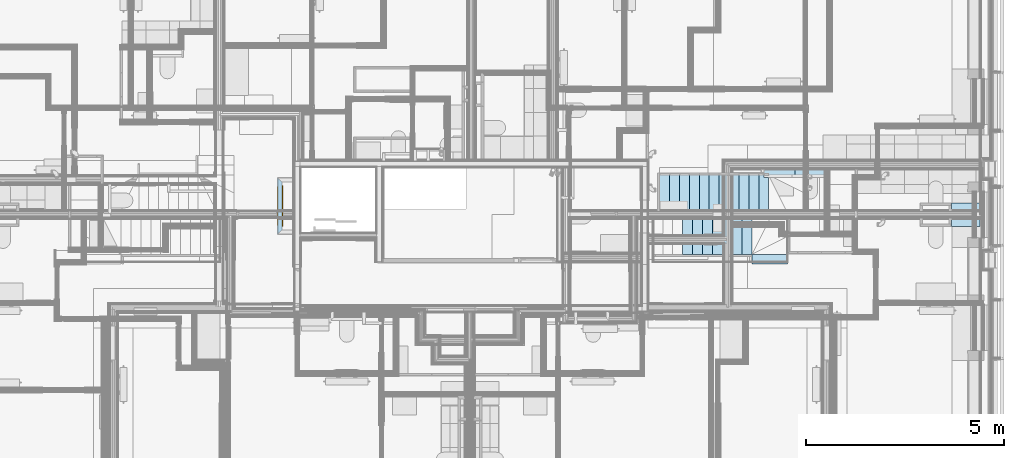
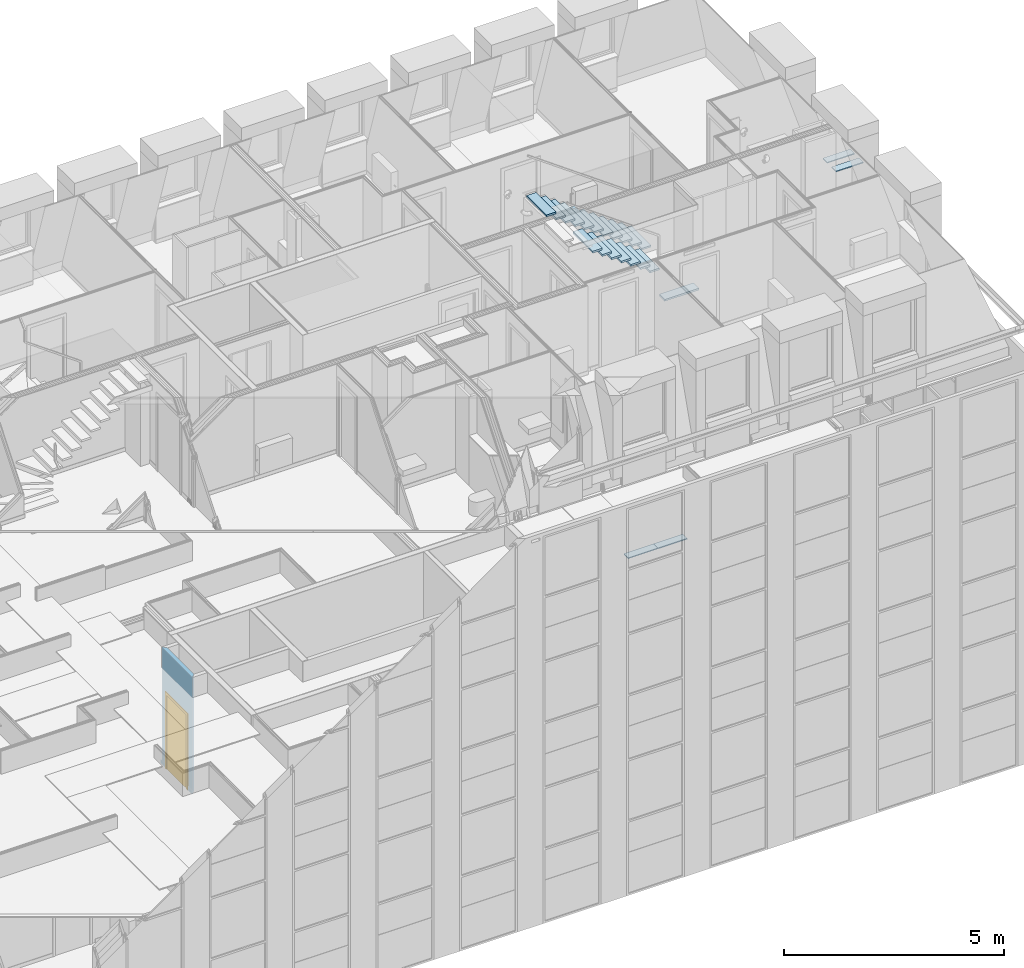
# One storey, part 82 of 169: 23 slabs, 1 door, 1 opening, plus 1 element that does not belong to this part.
"""IFC2X3 building model written with IfcOpenShell, lengths in metres."""

from ifc_helpers import new_model, entity, si_unit, converted_unit, derived_unit, money_unit, direction, frame, frame_2d, origin_with_axes, place, context, subcontext, project, spatial, polyline, rectangle, outline, extrude, clip, bounded_halfspace, faceted_brep, material, layer, layer_set, layer_usage, type_object, element, fill, save


model = new_model("IFC2X3")

# Units and contexts
model_context = context("Model", 3, precision=1e-05, world=origin_with_axes(), true_north=direction((0.0, 1.0)))
body_context = subcontext(model_context, "Body", "Model", "MODEL_VIEW", scale=1.0)
ifc_project = project(units=[si_unit("LENGTHUNIT", "METRE"), si_unit("AREAUNIT", "SQUARE_METRE"), si_unit("VOLUMEUNIT", "CUBIC_METRE"), si_unit("ABSORBEDDOSEUNIT", "GRAY"), si_unit("AMOUNTOFSUBSTANCEUNIT", "MOLE"), si_unit("DOSEEQUIVALENTUNIT", "SIEVERT"), si_unit("ELECTRICCAPACITANCEUNIT", "FARAD"), si_unit("ELECTRICCHARGEUNIT", "COULOMB"), si_unit("ELECTRICCONDUCTANCEUNIT", "SIEMENS"), si_unit("ELECTRICCURRENTUNIT", "AMPERE"), si_unit("ELECTRICRESISTANCEUNIT", "OHM"), si_unit("ELECTRICVOLTAGEUNIT", "VOLT"), si_unit("ENERGYUNIT", "JOULE"), si_unit("FORCEUNIT", "NEWTON"), si_unit("FREQUENCYUNIT", "HERTZ"), si_unit("ILLUMINANCEUNIT", "LUX"), si_unit("INDUCTANCEUNIT", "HENRY"), si_unit("LUMINOUSFLUXUNIT", "LUMEN"), si_unit("LUMINOUSINTENSITYUNIT", "CANDELA"), si_unit("MAGNETICFLUXDENSITYUNIT", "TESLA"), si_unit("MAGNETICFLUXUNIT", "WEBER"), si_unit("MASSUNIT", "GRAM"), converted_unit("PLANEANGLEUNIT", "degree", entity("IfcReal", 0.0174532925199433), si_unit("PLANEANGLEUNIT", "RADIAN"), dimensions=[0, 0, 0, 0, 0, 0, 0]), si_unit("POWERUNIT", "WATT"), si_unit("PRESSUREUNIT", "PASCAL"), si_unit("RADIOACTIVITYUNIT", "BECQUEREL"), si_unit("SOLIDANGLEUNIT", "STERADIAN"), si_unit("THERMODYNAMICTEMPERATUREUNIT", "KELVIN"), si_unit("TIMEUNIT", "SECOND"), derived_unit("ACCELERATIONUNIT", [(si_unit("LENGTHUNIT", "METRE"), 1), (si_unit("TIMEUNIT", "SECOND"), -2)]), derived_unit("ANGULARVELOCITYUNIT", [(converted_unit("PLANEANGLEUNIT", "degree", entity("IfcReal", 0.0174532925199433), si_unit("PLANEANGLEUNIT", "RADIAN"), dimensions=[0, 0, 0, 0, 0, 0, 0]), 1), (si_unit("TIMEUNIT", "SECOND"), -1)]), derived_unit("CURVATUREUNIT", [(converted_unit("PLANEANGLEUNIT", "degree", entity("IfcReal", 0.0174532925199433), si_unit("PLANEANGLEUNIT", "RADIAN"), dimensions=[0, 0, 0, 0, 0, 0, 0]), 1), (si_unit("LENGTHUNIT", "METRE"), -1)]), derived_unit("DYNAMICVISCOSITYUNIT", [(si_unit("PRESSUREUNIT", "PASCAL"), 1), (si_unit("TIMEUNIT", "SECOND"), 1)]), derived_unit("HEATFLUXDENSITYUNIT", [(si_unit("POWERUNIT", "WATT"), 1), (si_unit("LENGTHUNIT", "METRE"), -2)]), derived_unit("HEATINGVALUEUNIT", [(si_unit("ENERGYUNIT", "JOULE"), 1), (si_unit("MASSUNIT", "GRAM"), -1)]), derived_unit("INTEGERCOUNTRATEUNIT", [(si_unit("TIMEUNIT", "SECOND"), -1)]), derived_unit("IONCONCENTRATIONUNIT", [(si_unit("MASSUNIT", "GRAM"), 1), (si_unit("VOLUMEUNIT", "CUBIC_METRE"), -1)]), derived_unit("ISOTHERMALMOISTURECAPACITYUNIT", [(si_unit("VOLUMEUNIT", "CUBIC_METRE"), 1), (si_unit("MASSUNIT", "GRAM"), -1)]), derived_unit("KINEMATICVISCOSITYUNIT", [(si_unit("AREAUNIT", "SQUARE_METRE"), 1), (si_unit("TIMEUNIT", "SECOND"), -1)]), derived_unit("LINEARFORCEUNIT", [(si_unit("FORCEUNIT", "NEWTON"), 1), (si_unit("LENGTHUNIT", "METRE"), -1)]), derived_unit("LINEARMOMENTUNIT", [(si_unit("FORCEUNIT", "NEWTON"), 1), (si_unit("LENGTHUNIT", "METRE"), -1)]), derived_unit("LINEARSTIFFNESSUNIT", [(si_unit("FORCEUNIT", "NEWTON"), 1), (si_unit("LENGTHUNIT", "METRE"), -1)]), derived_unit("LINEARVELOCITYUNIT", [(si_unit("LENGTHUNIT", "METRE"), 1), (si_unit("TIMEUNIT", "SECOND"), -1)]), derived_unit("LUMINOUSINTENSITYDISTRIBUTIONUNIT", [(si_unit("LUMINOUSINTENSITYUNIT", "CANDELA"), 1), (si_unit("LUMINOUSFLUXUNIT", "LUMEN"), -1)]), derived_unit("MASSDENSITYUNIT", [(si_unit("MASSUNIT", "GRAM"), 1), (si_unit("VOLUMEUNIT", "CUBIC_METRE"), -1)]), derived_unit("MASSFLOWRATEUNIT", [(si_unit("MASSUNIT", "GRAM"), 1), (si_unit("TIMEUNIT", "SECOND"), -1)]), derived_unit("MASSPERLENGTHUNIT", [(si_unit("MASSUNIT", "GRAM"), 1), (si_unit("LENGTHUNIT", "METRE"), -1)]), derived_unit("MODULUSOFELASTICITYUNIT", [(si_unit("FORCEUNIT", "NEWTON"), 1), (si_unit("AREAUNIT", "SQUARE_METRE"), -1)]), derived_unit("MODULUSOFLINEARSUBGRADEREACTIONUNIT", [(si_unit("FORCEUNIT", "NEWTON"), 1), (si_unit("LENGTHUNIT", "METRE"), -2)]), derived_unit("MODULUSOFROTATIONALSUBGRADEREACTIONUNIT", [(si_unit("FORCEUNIT", "NEWTON"), 1), (si_unit("LENGTHUNIT", "METRE"), 1)]), derived_unit("MODULUSOFSUBGRADEREACTIONUNIT", [(si_unit("FORCEUNIT", "NEWTON"), 1), (si_unit("VOLUMEUNIT", "CUBIC_METRE"), -1)]), derived_unit("MOISTUREDIFFUSIVITYUNIT", [(si_unit("VOLUMEUNIT", "CUBIC_METRE"), 1), (si_unit("TIMEUNIT", "SECOND"), -1)]), derived_unit("MOLECULARWEIGHTUNIT", [(si_unit("MASSUNIT", "GRAM"), 1), (si_unit("AMOUNTOFSUBSTANCEUNIT", "MOLE"), -1)]), derived_unit("PLANARFORCEUNIT", [(si_unit("FORCEUNIT", "NEWTON"), 1), (si_unit("LENGTHUNIT", "METRE"), -2)]), derived_unit("ROTATIONALFREQUENCYUNIT", [(si_unit("TIMEUNIT", "SECOND"), -1)]), derived_unit("ROTATIONALMASSUNIT", [(si_unit("MASSUNIT", "GRAM"), 1), (si_unit("LENGTHUNIT", "METRE"), 2)]), derived_unit("ROTATIONALSTIFFNESSUNIT", [(si_unit("FORCEUNIT", "NEWTON"), 1), (si_unit("LENGTHUNIT", "METRE"), 1), (converted_unit("PLANEANGLEUNIT", "degree", entity("IfcReal", 0.0174532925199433), si_unit("PLANEANGLEUNIT", "RADIAN"), dimensions=[0, 0, 0, 0, 0, 0, 0]), -1)]), derived_unit("SECTIONAREAINTEGRALUNIT", [(si_unit("LENGTHUNIT", "METRE"), 5)]), derived_unit("SECTIONMODULUSUNIT", [(si_unit("LENGTHUNIT", "METRE"), 3)]), derived_unit("SHEARMODULUSUNIT", [(si_unit("FORCEUNIT", "NEWTON"), 1), (si_unit("AREAUNIT", "SQUARE_METRE"), -1)]), derived_unit("SOUNDPOWERUNIT", [(si_unit("ENERGYUNIT", "JOULE"), 1), (si_unit("TIMEUNIT", "SECOND"), -1)]), derived_unit("SPECIFICHEATCAPACITYUNIT", [(si_unit("FORCEUNIT", "NEWTON"), 1), (si_unit("MASSUNIT", "GRAM"), -1), (si_unit("THERMODYNAMICTEMPERATUREUNIT", "KELVIN"), -1)]), derived_unit("TEMPERATUREGRADIENTUNIT", [(si_unit("THERMODYNAMICTEMPERATUREUNIT", "KELVIN"), 1), (si_unit("LENGTHUNIT", "METRE"), -1)]), derived_unit("THERMALADMITTANCEUNIT", [(si_unit("POWERUNIT", "WATT"), 1), (si_unit("AREAUNIT", "SQUARE_METRE"), -1), (si_unit("THERMODYNAMICTEMPERATUREUNIT", "KELVIN"), -1)]), derived_unit("THERMALCONDUCTANCEUNIT", [(si_unit("POWERUNIT", "WATT"), 1), (si_unit("LENGTHUNIT", "METRE"), -1), (si_unit("THERMODYNAMICTEMPERATUREUNIT", "KELVIN"), -1)]), derived_unit("THERMALEXPANSIONCOEFFICIENTUNIT", [(si_unit("THERMODYNAMICTEMPERATUREUNIT", "KELVIN"), -1)]), derived_unit("THERMALRESISTANCEUNIT", [(si_unit("AREAUNIT", "SQUARE_METRE"), 1), (si_unit("POWERUNIT", "WATT"), -1)]), derived_unit("THERMALTRANSMITTANCEUNIT", [(si_unit("POWERUNIT", "WATT"), 1), (si_unit("AREAUNIT", "SQUARE_METRE"), -1), (si_unit("THERMODYNAMICTEMPERATUREUNIT", "KELVIN"), -1)]), derived_unit("TORQUEUNIT", [(si_unit("FORCEUNIT", "NEWTON"), 1), (si_unit("LENGTHUNIT", "METRE"), 1)]), derived_unit("VAPORPERMEABILITYUNIT", [(si_unit("MASSUNIT", "GRAM"), 1), (si_unit("TIMEUNIT", "SECOND"), -1)]), derived_unit("VOLUMETRICFLOWRATEUNIT", [(si_unit("VOLUMEUNIT", "CUBIC_METRE"), 1), (si_unit("TIMEUNIT", "SECOND"), -1)]), derived_unit("WARPINGCONSTANTUNIT", [(si_unit("LENGTHUNIT", "METRE"), 6)]), derived_unit("WARPINGMOMENTUNIT", [(si_unit("FORCEUNIT", "NEWTON"), 1), (si_unit("LENGTHUNIT", "METRE"), 2)]), money_unit("GBP")], contexts=[model_context])

# Site, building, storey
site_placement = place(None, origin_with_axes())
site = spatial("IfcSite", under=ifc_project, at=site_placement, Name="Site", CompositionType="ELEMENT")
building_placement = place(site_placement, origin_with_axes())
building = spatial("IfcBuilding", under=site, at=building_placement, Name="Building01", CompositionType="ELEMENT")
storey_placement = place(building_placement, frame((0.0, 0.0, 5.15), z_axis=(0.0, 0.0, 1.0), x_axis=(1.0, 0.0, 0.0)))
storey = spatial("IfcBuildingStorey", under=building, at=storey_placement, Name="1F", CompositionType="ELEMENT", Elevation=5.15)

# Slabs
ifc_material_1 = material(Name="A_BSUK_Ceramic_WallTiles")
slab_type = type_object("IfcSlabType", Name="A-FloorsSlabs A_BSUK_Slabs", PredefinedType="FLOOR")
placement = place(storey_placement, frame((0.0, 0.0, -5.15), z_axis=(0.0, 0.0, 1.0), x_axis=(1.0, 0.0, 0.0)))
element("IfcSlab", 1, at=placement, inside=storey, type_object=slab_type, material=ifc_material_1, Name="A-FloorsSlabs A_BSUK_Slabs", ObjectType="CompoundSlabLeaf", context=body_context, shape_type="Brep", body=[
    faceted_brep([(22.476661, 8.595, 6.525), (22.476661, 8.595, 6.55), (22.476661, 8.395001, 6.55), (22.476661, 8.395001, 6.525), (21.699661, 8.594999, 6.525), (21.699661, 8.594999, 6.55), (21.699661, 8.395003, 6.525), (21.699661, 8.395003, 6.55)], [[[0, 1, 2, 3]], [[4, 5, 1, 0]], [[6, 7, 5, 4]], [[3, 2, 7, 6]], [[1, 5, 7, 2]], [[3, 6, 4, 0]]]),
])
element("IfcSlab", 2, at=placement, inside=storey, type_object=slab_type, material=ifc_material_1, Name="A-FloorsSlabs A_BSUK_Slabs", ObjectType="CompoundSlabLeaf", context=body_context, shape_type="Brep", body=[
    faceted_brep([(21.699661, 8.595, 6.525), (21.699661, 8.595, 6.55), (21.699661, 8.395003, 6.55), (21.699661, 8.395003, 6.525), (20.922661, 8.595, 6.525), (20.922661, 8.595, 6.55), (20.922661, 8.394685, 6.525), (20.922661, 8.394685, 6.55)], [[[0, 1, 2, 3]], [[4, 5, 1, 0]], [[6, 7, 5, 4]], [[3, 2, 7, 6]], [[1, 5, 7, 2]], [[3, 6, 4, 0]]]),
])
element("IfcSlab", 3, at=placement, inside=storey, type_object=slab_type, material=ifc_material_1, Name="A-FloorsSlabs A_BSUK_Slabs", ObjectType="CompoundSlabLeaf", context=body_context, shape_type="Brep", body=[
    faceted_brep([(26.380061, 7.749913, 16.355), (26.380061, 7.749913, 16.38), (26.380061, 7.549915, 16.38), (26.380061, 7.549915, 16.355), (25.658821, 7.749913, 16.355), (25.658821, 7.749913, 16.38), (25.658821, 7.549915, 16.355), (25.658821, 7.549915, 16.38)], [[[0, 1, 2, 3]], [[4, 5, 1, 0]], [[6, 7, 5, 4]], [[3, 2, 7, 6]], [[1, 5, 7, 2]], [[3, 6, 4, 0]]]),
])
element("IfcSlab", 4, at=placement, inside=storey, type_object=slab_type, material=ifc_material_1, Name="A-FloorsSlabs A_BSUK_Slabs", ObjectType="CompoundSlabLeaf", context=body_context, shape_type="Brep", body=[
    faceted_brep([(26.380061, 7.349964, 16.355), (26.380061, 7.349964, 16.38), (26.380061, 7.149966, 16.38), (26.380061, 7.149966, 16.355), (25.658821, 7.349964, 16.355), (25.658821, 7.349964, 16.38), (25.658821, 7.149966, 16.355), (25.658821, 7.149966, 16.38)], [[[0, 1, 2, 3]], [[4, 5, 1, 0]], [[6, 7, 5, 4]], [[3, 2, 7, 6]], [[1, 5, 7, 2]], [[3, 6, 4, 0]]]),
])
ifc_material_2 = material(Name="A_BSUK_Slabs")
element("IfcSlab", 5, at=placement, inside=storey, type_object=slab_type, material=ifc_material_2, Name="A-FloorsSlabs A_BSUK_Slabs", ObjectType="CompoundSlabLeaf", context=body_context, shape_type="Brep", body=[
    faceted_brep([(18.86844, 7.349939, 16.91), (18.86844, 7.349939, 16.96), (19.11844, 7.349939, 16.96), (19.11844, 7.349939, 16.91), (18.86844, 6.449939, 16.91), (18.86844, 6.449939, 16.96), (19.11844, 6.449939, 16.91), (19.11844, 6.449939, 16.96)], [[[0, 1, 2, 3]], [[4, 5, 1, 0]], [[6, 7, 5, 4]], [[3, 2, 7, 6]], [[1, 5, 7, 2]], [[3, 6, 4, 0]]]),
])
element("IfcSlab", 6, at=placement, inside=storey, type_object=slab_type, material=ifc_material_2, Name="A-FloorsSlabs A_BSUK_Slabs", ObjectType="CompoundSlabLeaf", context=body_context, shape_type="Brep", body=[
    faceted_brep([(19.11844, 7.349939, 16.73), (19.11844, 7.349939, 16.78), (19.36844, 7.349939, 16.78), (19.36844, 7.349939, 16.73), (19.11844, 6.449939, 16.73), (19.11844, 6.449939, 16.78), (19.36844, 6.449939, 16.73), (19.36844, 6.449939, 16.78)], [[[0, 1, 2, 3]], [[4, 5, 1, 0]], [[6, 7, 5, 4]], [[3, 2, 7, 6]], [[1, 5, 7, 2]], [[3, 6, 4, 0]]]),
])
element("IfcSlab", 7, at=placement, inside=storey, type_object=slab_type, material=ifc_material_2, Name="A-FloorsSlabs A_BSUK_Slabs", ObjectType="CompoundSlabLeaf", context=body_context, shape_type="Brep", body=[
    faceted_brep([(19.36844, 7.349939, 16.55), (19.36844, 7.349939, 16.6), (19.61844, 7.349939, 16.6), (19.61844, 7.349939, 16.55), (19.36844, 6.449939, 16.55), (19.36844, 6.449939, 16.6), (19.61844, 6.449939, 16.55), (19.61844, 6.449939, 16.6)], [[[0, 1, 2, 3]], [[4, 5, 1, 0]], [[6, 7, 5, 4]], [[3, 2, 7, 6]], [[1, 5, 7, 2]], [[3, 6, 4, 0]]]),
])
element("IfcSlab", 8, at=placement, inside=storey, type_object=slab_type, material=ifc_material_2, Name="A-FloorsSlabs A_BSUK_Slabs", ObjectType="CompoundSlabLeaf", context=body_context, shape_type="Brep", body=[
    faceted_brep([(19.61844, 7.349939, 16.37), (19.61844, 7.349939, 16.42), (19.86844, 7.349939, 16.42), (19.86844, 7.349939, 16.37), (19.61844, 6.449939, 16.37), (19.61844, 6.449939, 16.42), (19.86844, 6.449939, 16.37), (19.86844, 6.449939, 16.42)], [[[0, 1, 2, 3]], [[4, 5, 1, 0]], [[6, 7, 5, 4]], [[3, 2, 7, 6]], [[1, 5, 7, 2]], [[3, 6, 4, 0]]]),
])
element("IfcSlab", 9, at=placement, inside=storey, type_object=slab_type, material=ifc_material_2, Name="A-FloorsSlabs A_BSUK_Slabs", ObjectType="CompoundSlabLeaf", context=body_context, shape_type="Brep", body=[
    faceted_brep([(19.86844, 7.349939, 16.19), (19.86844, 7.349939, 16.24), (20.11844, 7.349939, 16.24), (20.11844, 7.349939, 16.19), (19.86844, 6.449939, 16.19), (19.86844, 6.449939, 16.24), (20.11844, 6.449939, 16.19), (20.11844, 6.449939, 16.24)], [[[0, 1, 2, 3]], [[4, 5, 1, 0]], [[6, 7, 5, 4]], [[3, 2, 7, 6]], [[1, 5, 7, 2]], [[3, 6, 4, 0]]]),
])
element("IfcSlab", 10, at=placement, inside=storey, type_object=slab_type, material=ifc_material_2, Name="A-FloorsSlabs A_BSUK_Slabs", ObjectType="CompoundSlabLeaf", context=body_context, shape_type="Brep", body=[
    faceted_brep([(20.11844, 7.349939, 16.01), (20.11844, 7.349939, 16.06), (20.36844, 7.349939, 16.06), (20.36844, 7.349939, 16.01), (20.11844, 6.449939, 16.01), (20.11844, 6.449939, 16.06), (20.36844, 6.449939, 16.01), (20.36844, 6.449939, 16.06)], [[[0, 1, 2, 3]], [[4, 5, 1, 0]], [[6, 7, 5, 4]], [[3, 2, 7, 6]], [[1, 5, 7, 2]], [[3, 6, 4, 0]]]),
])
element("IfcSlab", 11, at=placement, inside=storey, type_object=slab_type, material=ifc_material_2, Name="A-FloorsSlabs A_BSUK_Slabs", ObjectType="CompoundSlabLeaf", context=body_context, shape_type="Brep", body=[
    faceted_brep([(20.36844, 7.349939, 15.83), (20.36844, 7.349939, 15.88), (20.61844, 7.349939, 15.88), (20.61844, 7.349939, 15.83), (20.36844, 6.449939, 15.83), (20.36844, 6.449939, 15.88), (20.61844, 6.449939, 15.83), (20.61844, 6.449939, 15.88)], [[[0, 1, 2, 3]], [[4, 5, 1, 0]], [[6, 7, 5, 4]], [[3, 2, 7, 6]], [[1, 5, 7, 2]], [[3, 6, 4, 0]]]),
])
element("IfcSlab", 12, at=placement, inside=storey, type_object=slab_type, material=ifc_material_2, Name="A-FloorsSlabs A_BSUK_Slabs", ObjectType="CompoundSlabLeaf", context=body_context, shape_type="Brep", body=[
    faceted_brep([(20.61844, 6.199939, 15.11), (20.61844, 6.199939, 15.16), (20.61844, 6.449939, 15.16), (20.61844, 6.449939, 15.11), (21.51844, 6.199939, 15.11), (21.51844, 6.199939, 15.16), (21.51844, 6.449939, 15.11), (21.51844, 6.449939, 15.16)], [[[0, 1, 2, 3]], [[4, 5, 1, 0]], [[6, 7, 5, 4]], [[3, 2, 7, 6]], [[1, 5, 7, 2]], [[3, 6, 4, 0]]]),
])
element("IfcSlab", 13, at=placement, inside=storey, type_object=slab_type, material=ifc_material_2, Name="A-FloorsSlabs A_BSUK_Slabs", ObjectType="CompoundSlabLeaf", context=body_context, shape_type="Brep", body=[
    faceted_brep([(18.789976, 7.549915, 17.27), (18.789976, 7.549915, 17.32), (18.539976, 7.549915, 17.32), (18.539976, 7.549915, 17.27), (18.789976, 8.449915, 17.27), (18.789976, 8.449915, 17.32), (18.539976, 8.449915, 17.27), (18.539976, 8.449915, 17.32)], [[[0, 1, 2, 3]], [[4, 5, 1, 0]], [[6, 7, 5, 4]], [[3, 2, 7, 6]], [[1, 5, 7, 2]], [[3, 6, 4, 0]]]),
])
element("IfcSlab", 14, at=placement, inside=storey, type_object=slab_type, material=ifc_material_2, Name="A-FloorsSlabs A_BSUK_Slabs", ObjectType="CompoundSlabLeaf", context=body_context, shape_type="Brep", body=[
    faceted_brep([(19.039976, 7.549915, 17.09), (19.039976, 7.549915, 17.14), (18.789976, 7.549915, 17.14), (18.789976, 7.549915, 17.09), (19.039976, 8.449915, 17.09), (19.039976, 8.449915, 17.14), (18.789976, 8.449915, 17.09), (18.789976, 8.449915, 17.14)], [[[0, 1, 2, 3]], [[4, 5, 1, 0]], [[6, 7, 5, 4]], [[3, 2, 7, 6]], [[1, 5, 7, 2]], [[3, 6, 4, 0]]]),
])
element("IfcSlab", 15, at=placement, inside=storey, type_object=slab_type, material=ifc_material_2, Name="A-FloorsSlabs A_BSUK_Slabs", ObjectType="CompoundSlabLeaf", context=body_context, shape_type="Brep", body=[
    faceted_brep([(19.289976, 7.549915, 16.91), (19.289976, 7.549915, 16.96), (19.039976, 7.549915, 16.96), (19.039976, 7.549915, 16.91), (19.289976, 8.449915, 16.91), (19.289976, 8.449915, 16.96), (19.039976, 8.449915, 16.91), (19.039976, 8.449915, 16.96)], [[[0, 1, 2, 3]], [[4, 5, 1, 0]], [[6, 7, 5, 4]], [[3, 2, 7, 6]], [[1, 5, 7, 2]], [[3, 6, 4, 0]]]),
])
element("IfcSlab", 16, at=placement, inside=storey, type_object=slab_type, material=ifc_material_2, Name="A-FloorsSlabs A_BSUK_Slabs", ObjectType="CompoundSlabLeaf", context=body_context, shape_type="Brep", body=[
    faceted_brep([(19.539976, 7.549915, 16.73), (19.539976, 7.549915, 16.78), (19.289976, 7.549915, 16.78), (19.289976, 7.549915, 16.73), (19.539976, 8.449915, 16.73), (19.539976, 8.449915, 16.78), (19.289976, 8.449915, 16.73), (19.289976, 8.449915, 16.78)], [[[0, 1, 2, 3]], [[4, 5, 1, 0]], [[6, 7, 5, 4]], [[3, 2, 7, 6]], [[1, 5, 7, 2]], [[3, 6, 4, 0]]]),
])
element("IfcSlab", 17, at=placement, inside=storey, type_object=slab_type, material=ifc_material_2, Name="A-FloorsSlabs A_BSUK_Slabs", ObjectType="CompoundSlabLeaf", context=body_context, shape_type="Brep", body=[
    faceted_brep([(19.789976, 7.549915, 16.55), (19.789976, 7.549915, 16.6), (19.539976, 7.549915, 16.6), (19.539976, 7.549915, 16.55), (19.789976, 8.449915, 16.55), (19.789976, 8.449915, 16.6), (19.539976, 8.449915, 16.55), (19.539976, 8.449915, 16.6)], [[[0, 1, 2, 3]], [[4, 5, 1, 0]], [[6, 7, 5, 4]], [[3, 2, 7, 6]], [[1, 5, 7, 2]], [[3, 6, 4, 0]]]),
])
element("IfcSlab", 18, at=placement, inside=storey, type_object=slab_type, material=ifc_material_2, Name="A-FloorsSlabs A_BSUK_Slabs", ObjectType="CompoundSlabLeaf", context=body_context, shape_type="Brep", body=[
    faceted_brep([(20.039976, 7.549915, 16.37), (20.039976, 7.549915, 16.42), (19.789976, 7.549915, 16.42), (19.789976, 7.549915, 16.37), (20.039976, 8.449915, 16.37), (20.039976, 8.449915, 16.42), (19.789976, 8.449915, 16.37), (19.789976, 8.449915, 16.42)], [[[0, 1, 2, 3]], [[4, 5, 1, 0]], [[6, 7, 5, 4]], [[3, 2, 7, 6]], [[1, 5, 7, 2]], [[3, 6, 4, 0]]]),
])
element("IfcSlab", 19, at=placement, inside=storey, type_object=slab_type, material=ifc_material_2, Name="A-FloorsSlabs A_BSUK_Slabs", ObjectType="CompoundSlabLeaf", context=body_context, shape_type="Brep", body=[
    faceted_brep([(20.289976, 7.549915, 16.19), (20.289976, 7.549915, 16.24), (20.039976, 7.549915, 16.24), (20.039976, 7.549915, 16.19), (20.289976, 8.449915, 16.19), (20.289976, 8.449915, 16.24), (20.039976, 8.449915, 16.19), (20.039976, 8.449915, 16.24)], [[[0, 1, 2, 3]], [[4, 5, 1, 0]], [[6, 7, 5, 4]], [[3, 2, 7, 6]], [[1, 5, 7, 2]], [[3, 6, 4, 0]]]),
])
element("IfcSlab", 20, at=placement, inside=storey, type_object=slab_type, material=ifc_material_2, Name="A-FloorsSlabs A_BSUK_Slabs", ObjectType="CompoundSlabLeaf", context=body_context, shape_type="Brep", body=[
    faceted_brep([(20.539976, 7.549915, 16.01), (20.539976, 7.549915, 16.06), (20.289976, 7.549915, 16.06), (20.289976, 7.549915, 16.01), (20.539976, 8.449915, 16.01), (20.539976, 8.449915, 16.06), (20.289976, 8.449915, 16.01), (20.289976, 8.449915, 16.06)], [[[0, 1, 2, 3]], [[4, 5, 1, 0]], [[6, 7, 5, 4]], [[3, 2, 7, 6]], [[1, 5, 7, 2]], [[3, 6, 4, 0]]]),
])
element("IfcSlab", 21, at=placement, inside=storey, type_object=slab_type, material=ifc_material_2, Name="A-FloorsSlabs A_BSUK_Slabs", ObjectType="CompoundSlabLeaf", context=body_context, shape_type="Brep", body=[
    faceted_brep([(20.789976, 7.549915, 15.83), (20.789976, 7.549915, 15.88), (20.539976, 7.549915, 15.88), (20.539976, 7.549915, 15.83), (20.789976, 8.449915, 15.83), (20.789976, 8.449915, 15.88), (20.539976, 8.449915, 15.83), (20.539976, 8.449915, 15.88)], [[[0, 1, 2, 3]], [[4, 5, 1, 0]], [[6, 7, 5, 4]], [[3, 2, 7, 6]], [[1, 5, 7, 2]], [[3, 6, 4, 0]]]),
])
element("IfcSlab", 22, at=placement, inside=storey, type_object=slab_type, material=ifc_material_2, Name="A-FloorsSlabs A_BSUK_Slabs", ObjectType="CompoundSlabLeaf", context=body_context, shape_type="Brep", body=[
    faceted_brep([(21.039976, 7.549915, 15.65), (21.039976, 7.549915, 15.7), (20.789976, 7.549915, 15.7), (20.789976, 7.549915, 15.65), (21.039976, 8.449915, 15.65), (21.039976, 8.449915, 15.7), (20.789976, 8.449915, 15.65), (20.789976, 8.449915, 15.7)], [[[0, 1, 2, 3]], [[4, 5, 1, 0]], [[6, 7, 5, 4]], [[3, 2, 7, 6]], [[1, 5, 7, 2]], [[3, 6, 4, 0]]]),
])
element("IfcSlab", 23, at=placement, inside=storey, type_object=slab_type, material=ifc_material_2, Name="A-FloorsSlabs A_BSUK_Slabs", ObjectType="CompoundSlabLeaf", context=body_context, shape_type="Brep", body=[
    faceted_brep([(18.539976, 7.549915, 17.45), (18.539976, 7.549915, 17.5), (18.289976, 7.549915, 17.5), (18.289976, 7.549915, 17.45), (18.539976, 8.449915, 17.45), (18.539976, 8.449915, 17.5), (18.289976, 8.449915, 17.45), (18.289976, 8.449915, 17.5)], [[[0, 1, 2, 3]], [[4, 5, 1, 0]], [[6, 7, 5, 4]], [[3, 2, 7, 6]], [[1, 5, 7, 2]], [[3, 6, 4, 0]]]),
])

# Wall, opening
ifc_material_3 = material(Name="A_BSUK_WallInternal_Finishes_Plasterboard")
ifc_layer_1 = layer(ifc_material_3, 0.015, ventilated=False)
ifc_material_4 = material(Name="Air Cavity")
ifc_layer_2 = layer(ifc_material_4, 0.072, ventilated=False)
ifc_material_5 = material(Name="A_BSUK_Walls_Timber")
ifc_layer_3 = layer(ifc_material_5, 0.015, ventilated=False)
ifc_layer_set = layer_set([ifc_layer_1, ifc_layer_2, ifc_layer_1, ifc_layer_3])
ifc_layer_usage = layer_usage(ifc_layer_set, "AXIS2", "POSITIVE", 0.0)
wall_type = type_object("IfcWallType", Name="SHE_A-Walls_Type04c_RiserWall_102mm_tall", PredefinedType="NOTDEFINED")
wall_placement = place(storey_placement, frame((8.658, 6.968405, 0.015), z_axis=(0.0, 0.0, 1.0), x_axis=(0.0, 1.0, 0.0)))
wall = element("IfcWallStandardCase", 24, at=wall_placement, inside=storey, type_object=wall_type, material=ifc_layer_usage, Name="4C", ObjectType="SHE_A-Walls_Type04c_RiserWall_102mm_tall", context=body_context, shape_type="Clipping", body=[
    clip(clip(extrude(outline(polyline([(1.389, -0.015), (1.389, 0.0), (1.404, 0.0), (1.419, 0.015), (-0.015, 0.015), (0.102, -0.102), (1.302, -0.102), (1.389, -0.015)])), frame((0.0, 0.0, -0.015), z_axis=(0.0, 0.0, 1.0), x_axis=(1.0, 0.0, 0.0)), (0.0, 0.0, 1.0), 3.24), bounded_halfspace(frame((0.0, 0.0, 0.1), z_axis=(0.0, 0.0, 1.0), x_axis=(1.0, 0.0, 0.0)), False, frame((0.0, 0.0, 0.1), z_axis=(0.0, 0.0, 1.0), x_axis=(1.0, 0.0, 0.0)), polyline([(1.419, 0.015), (-0.015, 0.015), (0.0, 0.0), (1.404, 0.0), (1.419, 0.015)]))), bounded_halfspace(frame((0.0, 0.0, 0.0), z_axis=(0.0, 0.0, -1.0), x_axis=(-1.0, 0.0, 0.0)), False, frame((0.0, 0.0, 0.0), z_axis=(0.0, 0.0, -1.0), x_axis=(-1.0, 0.0, 0.0)), polyline([(-1.404, 0.0), (0.0, 0.0), (0.015, 0.015), (-1.419, 0.015), (-1.404, 0.0)]))),
])
opening_placement = place(wall_placement, frame((0.21, -0.102, -0.015), z_axis=(0.0, 0.0, 1.0), x_axis=(1.0, 0.0, 0.0)))
opening = element("IfcOpeningElement", 25, at=opening_placement, cuts=wall, Name="Opening", ObjectType="Opening", context=body_context, shape_type="SweptSolid", body=[
    extrude(rectangle(XDim=0.984, YDim=2.1, at=frame_2d((-0.492, 1.05), x_axis=(1.0, 0.0))), frame((0.0, 0.0, 0.0), z_axis=(0.0, 1.0, 0.0), x_axis=(-1.0, 0.0, 0.0)), (0.0, 0.0, 1.0), 0.117),
])

# Space
space_placement = place(storey_placement, frame((7.287055, 5.205, 0.017932), z_axis=(0.0, 0.0, 1.0), x_axis=(1.0, 0.0, 0.0)))
space = spatial("IfcSpace", under=storey, at=space_placement, Name="2", CompositionType="ELEMENT", InteriorOrExteriorSpace="NOTDEFINED")

# Door
ifc_material_6 = material(Name="A_BSUK_Doors")
door_style = type_object("IfcDoorStyle", Name="A-Doors-DoubleFlush", ConstructionType="USERDEFINED", OperationType="DOUBLE_DOOR_SINGLE_SWING", ParameterTakesPrecedence=False, Sizeable=False)
door_placement = place(opening_placement, frame((0.042, 0.102, 0.0), z_axis=(0.0, 0.0, 1.0), x_axis=(1.0, 0.0, 0.0)))
door = element("IfcDoor", 26, at=door_placement, inside=space, type_object=door_style, material=ifc_material_6, Name="1.28", ObjectType="A-Doors-DoubleFlush", OverallHeight=2.1, OverallWidth=0.983999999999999, context=body_context, shape_type="Brep", body=[
    faceted_brep([(0.0, -0.121, 2.058), (0.9, -0.121, 2.058), (0.9, -0.121, 0.0), (0.969, -0.121, 0.0), (0.969, -0.121, 2.127), (-0.069, -0.121, 2.127), (-0.069, -0.121, 0.0), (0.0, -0.121, 0.0), (0.969, -0.102, 2.127), (0.969, -0.102, 0.0), (-0.069, -0.102, 0.0), (-0.069, -0.102, 2.127), (-0.042, -0.102, 0.0), (-0.042, 0.0, 0.0), (-0.069, 0.0, 0.0), (-0.069, 0.019, 0.0), (0.0, 0.019, 0.0), (0.0, 0.019, 2.058), (0.9, 0.019, 2.058), (-0.069, 0.019, 2.127), (0.969, 0.019, 2.127), (0.969, 0.019, 0.0), (0.9, 0.019, 0.0), (-0.069, 0.0, 2.127), (-0.042, 0.0, 2.1), (-0.042, -0.102, 2.1), (0.942, 0.0, 2.1), (0.942, -0.102, 2.1), (0.942, -0.102, 0.0), (0.942, 0.0, 0.0), (0.969, 0.0, 0.0), (0.969, 0.0, 2.127)], [[[0, 1, 2, 3, 4, 5, 6, 7]], [[8, 4, 3, 9]], [[10, 6, 5, 11]], [[11, 5, 4, 8]], [[7, 6, 10, 12, 13, 14, 15, 16]], [[7, 16, 17, 0]], [[0, 17, 18, 1]], [[17, 16, 15, 19, 20, 21, 22, 18]], [[1, 18, 22, 2]], [[14, 23, 19, 15]], [[24, 13, 12, 25]], [[26, 24, 25, 27]], [[11, 8, 9, 28, 27, 25, 12, 10]], [[27, 28, 29, 26]], [[26, 29, 30, 31, 23, 14, 13, 24]], [[22, 21, 30, 29, 28, 9, 3, 2]], [[30, 21, 20, 31]], [[31, 20, 19, 23]]]),
    faceted_brep([(0.9, -0.09, 0.0), (0.9, -0.04, 0.0), (0.9, -0.04, 2.058), (0.9, -0.09, 2.058), (0.025, -0.09, 2.033), (0.875, -0.09, 2.033), (0.875, -0.09, 0.0), (0.0, -0.09, 2.058), (0.0, -0.09, 0.0), (0.025, -0.09, 0.0), (0.0, -0.04, 0.0), (0.025, -0.04, 0.0), (0.0, -0.04, 2.058), (0.025, -0.04, 2.033), (0.875, -0.04, 0.0), (0.875, -0.04, 2.033)], [[[0, 1, 2, 3]], [[4, 5, 6, 0, 3, 7, 8, 9]], [[9, 8, 10, 11]], [[3, 2, 12, 7]], [[7, 12, 10, 8]], [[13, 11, 10, 12, 2, 1, 14, 15]], [[5, 15, 14, 6]], [[14, 1, 0, 6]], [[9, 11, 13, 4]], [[4, 13, 15, 5]]]),
    faceted_brep([(0.0, -0.04, 2.058), (0.0, 0.0, 2.058), (0.0, 0.0, 0.0), (0.0, -0.04, 0.0), (0.45, -0.04, 0.0), (0.45, 0.0, 0.0), (0.45, 0.0, 2.058), (0.45, -0.04, 2.058)], [[[0, 1, 2, 3]], [[4, 5, 6, 7]], [[3, 2, 5, 4]], [[3, 4, 7, 0]], [[7, 6, 1, 0]], [[1, 6, 5, 2]]]),
    faceted_brep([(0.45, -0.04, 2.058), (0.45, 0.0, 2.058), (0.45, 0.0, 0.0), (0.45, -0.04, 0.0), (0.9, -0.04, 0.0), (0.9, 0.0, 0.0), (0.9, 0.0, 2.058), (0.9, -0.04, 2.058)], [[[0, 1, 2, 3]], [[4, 5, 6, 7]], [[3, 2, 5, 4]], [[3, 4, 7, 0]], [[7, 6, 1, 0]], [[1, 6, 5, 2]]]),
])

fill(opening, door)

save(model, "model.ifc")
